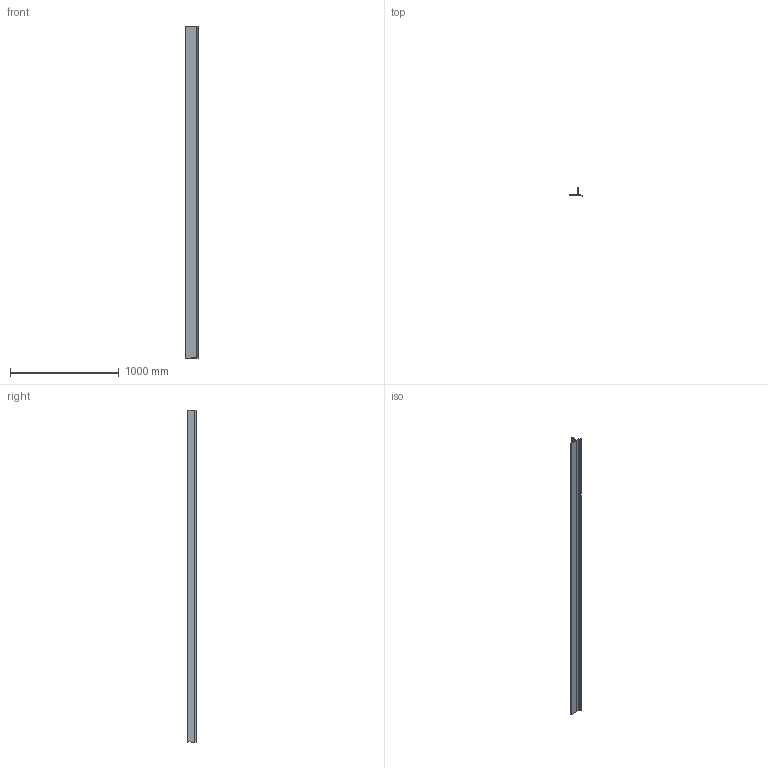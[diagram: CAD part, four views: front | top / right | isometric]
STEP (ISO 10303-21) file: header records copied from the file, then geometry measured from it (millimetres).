
FILE_DESCRIPTION (( 'STEP AP203' ), '1' );
FILE_NAME ('M56G.STEP', '2018-06-15T17:05:09', ( 'Michael Moliner' ), ( '' ), 'SwSTEP 2.0', 'SolidWorks 2018', '' );
FILE_SCHEMA (( 'CONFIG_CONTROL_DESIGN' ));
Length unit declared in the file: inch
Products named in the file (2): M56G
Bounding box: 117.61 x 78.03 x 3048 mm (x, y, z)
Volume: 379366.6 mm3; surface area: 1496914.9 mm2
Topology: 1 solids, 1 shells, 28 faces, 78 edges, 52 vertices
Faces by surface type: plane 16, cylinder 12
Entity records: 1063 total; most frequent: DIRECTION 162, CARTESIAN_POINT 160, ORIENTED_EDGE 156, EDGE_CURVE 78, VECTOR 54, LINE 54, AXIS2_PLACEMENT_3D 54, VERTEX_POINT 52
